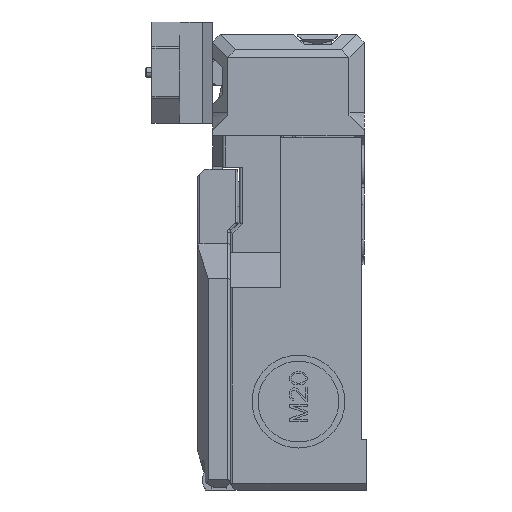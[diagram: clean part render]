
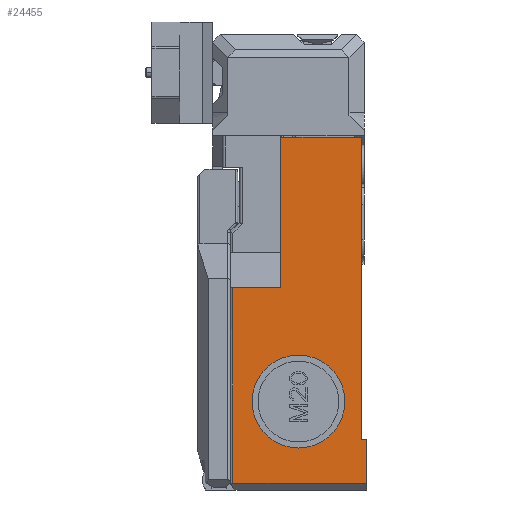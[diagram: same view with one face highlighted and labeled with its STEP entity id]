
A CAD part, left-side view. The second image highlights one B-rep face of the part: STEP entity #24455.
In plain terms, the highlighted planar face has unit normal (-1, 0, 0).
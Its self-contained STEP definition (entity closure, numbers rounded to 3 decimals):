
#597=DIRECTION('',(0.,0.,1.));
#598=VECTOR('',#597,59.8);
#599=CARTESIAN_POINT('',(-26.,-14.5,10.));
#600=LINE('',#599,#598);
#1081=CARTESIAN_POINT('',(-26.,-2.,17.5));
#1082=DIRECTION('',(1.,0.,0.));
#1083=DIRECTION('',(0.,1.,0.));
#1084=AXIS2_PLACEMENT_3D('',#1081,#1082,#1083);
#1089=CARTESIAN_POINT('',(-26.,-2.,17.5));
#1090=DIRECTION('',(1.,0.,0.));
#1091=DIRECTION('',(0.,-1.,0.));
#1092=AXIS2_PLACEMENT_3D('',#1089,#1090,#1091);
#1097=DIRECTION('',(0.,0.,1.));
#1098=VECTOR('',#1097,29.738);
#1099=CARTESIAN_POINT('',(-26.,1.5,40.062));
#1100=LINE('',#1099,#1098);
#1104=DIRECTION('',(0.,-1.,0.));
#1105=VECTOR('',#1104,16.);
#1106=CARTESIAN_POINT('',(-26.,1.5,69.8));
#1107=LINE('',#1106,#1105);
#1111=DIRECTION('',(0.,-1.,0.));
#1112=VECTOR('',#1111,1.);
#1113=CARTESIAN_POINT('',(-26.,-14.5,10.));
#1114=LINE('',#1113,#1112);
#1146=DIRECTION('',(0.,1.,0.));
#1147=VECTOR('',#1146,9.5);
#1148=CARTESIAN_POINT('',(-26.,1.5,40.062));
#1149=LINE('',#1148,#1147);
#9291=DIRECTION('',(0.,-1.,0.));
#9292=VECTOR('',#9291,26.5);
#9293=CARTESIAN_POINT('',(-26.,11.,1.289));
#9294=LINE('',#9293,#9292);
#9466=DIRECTION('',(0.,0.,-1.));
#9467=VECTOR('',#9466,8.711);
#9468=CARTESIAN_POINT('',(-26.,-15.5,10.));
#9469=LINE('',#9468,#9467);
#13502=CARTESIAN_POINT('',(-26.,11.,40.062));
#13507=DIRECTION('',(0.,0.,-1.));
#13508=VECTOR('',#13507,38.772);
#13509=CARTESIAN_POINT('',(-26.,11.,40.062));
#13510=LINE('',#13509,#13508);
#20245=CARTESIAN_POINT('',(-26.,1.5,69.8));
#20246=CARTESIAN_POINT('',(-26.,-14.5,69.8));
#20247=VERTEX_POINT('',#20245);
#20248=VERTEX_POINT('',#20246);
#20249=CARTESIAN_POINT('',(-26.,1.5,40.062));
#20250=VERTEX_POINT('',#20249);
#20841=CARTESIAN_POINT('',(-26.,7.19,17.5));
#20842=CARTESIAN_POINT('',(-26.,-11.19,17.5));
#20843=VERTEX_POINT('',#20841);
#20844=VERTEX_POINT('',#20842);
#21218=CARTESIAN_POINT('',(-26.,-15.5,10.));
#21220=VERTEX_POINT('',#21218);
#21221=CARTESIAN_POINT('',(-26.,-15.5,1.289));
#21222=VERTEX_POINT('',#21221);
#21241=CARTESIAN_POINT('',(-26.,-14.5,10.));
#21243=VERTEX_POINT('',#21241);
#21845=VERTEX_POINT('',#13502);
#21846=CARTESIAN_POINT('',(-26.,11.,1.289));
#21847=VERTEX_POINT('',#21846);
#24427=CARTESIAN_POINT('',(-26.,-14.5,0.));
#24428=DIRECTION('',(-1.,0.,0.));
#24429=DIRECTION('',(0.,0.,1.));
#24430=AXIS2_PLACEMENT_3D('',#24427,#24428,#24429);
#24431=PLANE('',#24430);
#24433=ORIENTED_EDGE('',*,*,#24432,.F.);
#24435=ORIENTED_EDGE('',*,*,#24434,.F.);
#24437=ORIENTED_EDGE('',*,*,#24436,.T.);
#24439=ORIENTED_EDGE('',*,*,#24438,.T.);
#24440=ORIENTED_EDGE('',*,*,#24198,.F.);
#24442=ORIENTED_EDGE('',*,*,#24441,.T.);
#24444=ORIENTED_EDGE('',*,*,#24443,.T.);
#24446=ORIENTED_EDGE('',*,*,#24445,.F.);
#24447=EDGE_LOOP('',(#24433,#24435,#24437,#24439,#24440,#24442,#24444,#24446));
#24448=FACE_OUTER_BOUND('',#24447,.F.);
#24450=ORIENTED_EDGE('',*,*,#24449,.F.);
#24452=ORIENTED_EDGE('',*,*,#24451,.F.);
#24453=EDGE_LOOP('',(#24450,#24452));
#24454=FACE_BOUND('',#24453,.F.);
#24455=ADVANCED_FACE('',(#24448,#24454),#24431,.T.);
#1085=CIRCLE('',#1084,9.19);
#1093=CIRCLE('',#1092,9.19);
#24198=EDGE_CURVE('',#21243,#20248,#600,.T.);
#24432=EDGE_CURVE('',#21845,#21847,#13510,.T.);
#24434=EDGE_CURVE('',#20250,#21845,#1149,.T.);
#24436=EDGE_CURVE('',#20250,#20247,#1100,.T.);
#24438=EDGE_CURVE('',#20247,#20248,#1107,.T.);
#24441=EDGE_CURVE('',#21243,#21220,#1114,.T.);
#24443=EDGE_CURVE('',#21220,#21222,#9469,.T.);
#24445=EDGE_CURVE('',#21847,#21222,#9294,.T.);
#24449=EDGE_CURVE('',#20843,#20844,#1085,.T.);
#24451=EDGE_CURVE('',#20844,#20843,#1093,.T.);
